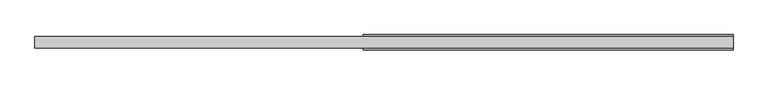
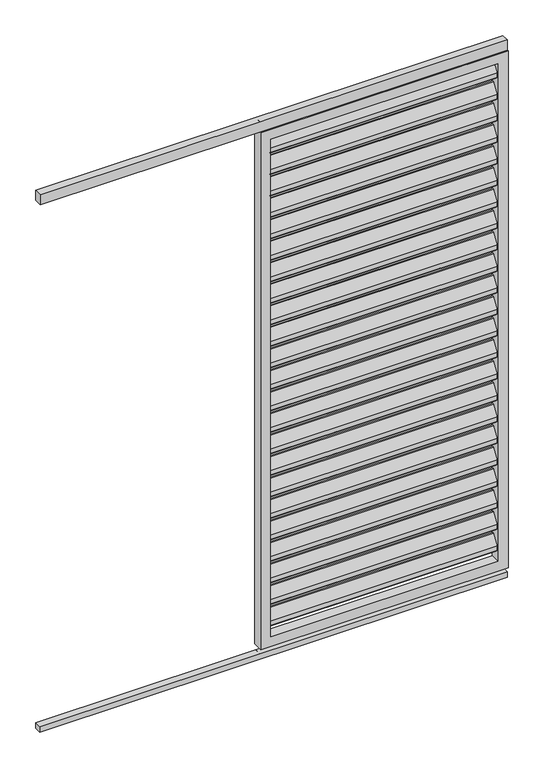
"""IFC4 building model written with IfcOpenShell, lengths in millimetres: proxy geometry, Renson_Camargue_Loggia_Paro_Aluminium : Renson_Camargue_Loggia_Paro_Aluminium."""

from ifc_helpers import new_model, si_unit, point, frame, frame_2d, origin, origin_with_axes, place, context, project, spatial, polyline, circle_curve, trimmed, segment, composite_curve, outline, extrude, source, transform, mapped, element, save


def generic_models_456a874e(model_context):
    return source(origin(), model_context, "Body", "SweptSolid", [
        extrude(outline(composite_curve([segment(trimmed(circle_curve(frame_2d((12.6675921, 2162.6587719)), 3.0), [point((10.1515804, 2164.292689))], [point((15.6675921, 2162.6587719))], False, "CARTESIAN"), True, "CONTINUOUS"), segment(polyline([(15.6675921, 2162.6587719), (15.6675921, 2144.2979873)]), True, "CONTINUOUS"), segment(trimmed(circle_curve(frame_2d((12.6675921, 2144.2979873)), 3.0), [point((15.6675921, 2144.2979873))], [point((15.1836038, 2142.6640702))], False, "CARTESIAN"), True, "CONTINUOUS"), segment(polyline([(15.1836038, 2142.6640702), (-8.8163962, 2105.707311)]), True, "CONTINUOUS"), segment(trimmed(circle_curve(frame_2d((-11.3324079, 2107.3412281)), 3.0), [point((-8.8163962, 2105.707311))], [point((-14.3324079, 2107.3412281))], False, "CARTESIAN"), True, "CONTINUOUS"), segment(polyline([(-14.3324079, 2107.3412281), (-14.3324079, 2126.5906532), (10.1515804, 2164.292689)]), True, "CONTINUOUS")], self_intersect=False)), frame((-450.0, 0.0, 0.0), z_axis=(1.0, 0.0, 0.0), x_axis=(0.0, 1.0, 0.0)), (0.0, 0.0, 1.0), 900.0),
        extrude(outline(composite_curve([segment(trimmed(circle_curve(frame_2d((12.6675921, 2072.6587719)), 3.0), [point((10.1515804, 2074.292689))], [point((15.6675921, 2072.6587719))], False, "CARTESIAN"), True, "CONTINUOUS"), segment(polyline([(15.6675921, 2072.6587719), (15.6675921, 2054.2979873)]), True, "CONTINUOUS"), segment(trimmed(circle_curve(frame_2d((12.6675921, 2054.2979873)), 3.0), [point((15.6675921, 2054.2979873))], [point((15.1836038, 2052.6640702))], False, "CARTESIAN"), True, "CONTINUOUS"), segment(polyline([(15.1836038, 2052.6640702), (-8.8163962, 2015.707311)]), True, "CONTINUOUS"), segment(trimmed(circle_curve(frame_2d((-11.3324079, 2017.3412281)), 3.0), [point((-8.8163962, 2015.707311))], [point((-14.3324079, 2017.3412281))], False, "CARTESIAN"), True, "CONTINUOUS"), segment(polyline([(-14.3324079, 2017.3412281), (-14.3324079, 2036.5906532), (10.1515804, 2074.292689)]), True, "CONTINUOUS")], self_intersect=False)), frame((-450.0, 0.0, 0.0), z_axis=(1.0, 0.0, 0.0), x_axis=(0.0, 1.0, 0.0)), (0.0, 0.0, 1.0), 900.0),
        extrude(outline(composite_curve([segment(trimmed(circle_curve(frame_2d((12.6675921, 1982.6587719)), 3.0), [point((10.1515804, 1984.292689))], [point((15.6675921, 1982.6587719))], False, "CARTESIAN"), True, "CONTINUOUS"), segment(polyline([(15.6675921, 1982.6587719), (15.6675921, 1964.2979873)]), True, "CONTINUOUS"), segment(trimmed(circle_curve(frame_2d((12.6675921, 1964.2979873)), 3.0), [point((15.6675921, 1964.2979873))], [point((15.1836038, 1962.6640702))], False, "CARTESIAN"), True, "CONTINUOUS"), segment(polyline([(15.1836038, 1962.6640702), (-8.8163962, 1925.707311)]), True, "CONTINUOUS"), segment(trimmed(circle_curve(frame_2d((-11.3324079, 1927.3412281)), 3.0), [point((-8.8163962, 1925.707311))], [point((-14.3324079, 1927.3412281))], False, "CARTESIAN"), True, "CONTINUOUS"), segment(polyline([(-14.3324079, 1927.3412281), (-14.3324079, 1946.5906532), (10.1515804, 1984.292689)]), True, "CONTINUOUS")], self_intersect=False)), frame((-450.0, 0.0, 0.0), z_axis=(1.0, 0.0, 0.0), x_axis=(0.0, 1.0, 0.0)), (0.0, 0.0, 1.0), 900.0),
        extrude(outline(composite_curve([segment(trimmed(circle_curve(frame_2d((12.6675921, 1892.6587719)), 3.0), [point((10.1515804, 1894.292689))], [point((15.6675921, 1892.6587719))], False, "CARTESIAN"), True, "CONTINUOUS"), segment(polyline([(15.6675921, 1892.6587719), (15.6675921, 1874.2979873)]), True, "CONTINUOUS"), segment(trimmed(circle_curve(frame_2d((12.6675921, 1874.2979873)), 3.0), [point((15.6675921, 1874.2979873))], [point((15.1836038, 1872.6640702))], False, "CARTESIAN"), True, "CONTINUOUS"), segment(polyline([(15.1836038, 1872.6640702), (-8.8163962, 1835.707311)]), True, "CONTINUOUS"), segment(trimmed(circle_curve(frame_2d((-11.3324079, 1837.3412281)), 3.0), [point((-8.8163962, 1835.707311))], [point((-14.3324079, 1837.3412281))], False, "CARTESIAN"), True, "CONTINUOUS"), segment(polyline([(-14.3324079, 1837.3412281), (-14.3324079, 1856.5906532), (10.1515804, 1894.292689)]), True, "CONTINUOUS")], self_intersect=False)), frame((-450.0, 0.0, 0.0), z_axis=(1.0, 0.0, 0.0), x_axis=(0.0, 1.0, 0.0)), (0.0, 0.0, 1.0), 900.0),
        extrude(outline(composite_curve([segment(trimmed(circle_curve(frame_2d((12.6675921, 1802.6587719)), 3.0), [point((10.1515804, 1804.292689))], [point((15.6675921, 1802.6587719))], False, "CARTESIAN"), True, "CONTINUOUS"), segment(polyline([(15.6675921, 1802.6587719), (15.6675921, 1784.2979873)]), True, "CONTINUOUS"), segment(trimmed(circle_curve(frame_2d((12.6675921, 1784.2979873)), 3.0), [point((15.6675921, 1784.2979873))], [point((15.1836038, 1782.6640702))], False, "CARTESIAN"), True, "CONTINUOUS"), segment(polyline([(15.1836038, 1782.6640702), (-8.8163962, 1745.707311)]), True, "CONTINUOUS"), segment(trimmed(circle_curve(frame_2d((-11.3324079, 1747.3412281)), 3.0), [point((-8.8163962, 1745.707311))], [point((-14.3324079, 1747.3412281))], False, "CARTESIAN"), True, "CONTINUOUS"), segment(polyline([(-14.3324079, 1747.3412281), (-14.3324079, 1766.5906532), (10.1515804, 1804.292689)]), True, "CONTINUOUS")], self_intersect=False)), frame((-450.0, 0.0, 0.0), z_axis=(1.0, 0.0, 0.0), x_axis=(0.0, 1.0, 0.0)), (0.0, 0.0, 1.0), 900.0),
        extrude(outline(composite_curve([segment(trimmed(circle_curve(frame_2d((12.6675921, 1712.6587719)), 3.0), [point((10.1515804, 1714.292689))], [point((15.6675921, 1712.6587719))], False, "CARTESIAN"), True, "CONTINUOUS"), segment(polyline([(15.6675921, 1712.6587719), (15.6675921, 1694.2979873)]), True, "CONTINUOUS"), segment(trimmed(circle_curve(frame_2d((12.6675921, 1694.2979873)), 3.0), [point((15.6675921, 1694.2979873))], [point((15.1836038, 1692.6640702))], False, "CARTESIAN"), True, "CONTINUOUS"), segment(polyline([(15.1836038, 1692.6640702), (-8.8163962, 1655.707311)]), True, "CONTINUOUS"), segment(trimmed(circle_curve(frame_2d((-11.3324079, 1657.3412281)), 3.0), [point((-8.8163962, 1655.707311))], [point((-14.3324079, 1657.3412281))], False, "CARTESIAN"), True, "CONTINUOUS"), segment(polyline([(-14.3324079, 1657.3412281), (-14.3324079, 1676.5906532), (10.1515804, 1714.292689)]), True, "CONTINUOUS")], self_intersect=False)), frame((-450.0, 0.0, 0.0), z_axis=(1.0, 0.0, 0.0), x_axis=(0.0, 1.0, 0.0)), (0.0, 0.0, 1.0), 900.0),
        extrude(outline(composite_curve([segment(trimmed(circle_curve(frame_2d((12.6675921, 1622.6587719)), 3.0), [point((10.1515804, 1624.292689))], [point((15.6675921, 1622.6587719))], False, "CARTESIAN"), True, "CONTINUOUS"), segment(polyline([(15.6675921, 1622.6587719), (15.6675921, 1604.2979873)]), True, "CONTINUOUS"), segment(trimmed(circle_curve(frame_2d((12.6675921, 1604.2979873)), 3.0), [point((15.6675921, 1604.2979873))], [point((15.1836038, 1602.6640702))], False, "CARTESIAN"), True, "CONTINUOUS"), segment(polyline([(15.1836038, 1602.6640702), (-8.8163962, 1565.707311)]), True, "CONTINUOUS"), segment(trimmed(circle_curve(frame_2d((-11.3324079, 1567.3412281)), 3.0), [point((-8.8163962, 1565.707311))], [point((-14.3324079, 1567.3412281))], False, "CARTESIAN"), True, "CONTINUOUS"), segment(polyline([(-14.3324079, 1567.3412281), (-14.3324079, 1586.5906532), (10.1515804, 1624.292689)]), True, "CONTINUOUS")], self_intersect=False)), frame((-450.0, 0.0, 0.0), z_axis=(1.0, 0.0, 0.0), x_axis=(0.0, 1.0, 0.0)), (0.0, 0.0, 1.0), 900.0),
        extrude(outline(composite_curve([segment(trimmed(circle_curve(frame_2d((12.6675921, 1532.6587719)), 3.0), [point((10.1515804, 1534.292689))], [point((15.6675921, 1532.6587719))], False, "CARTESIAN"), True, "CONTINUOUS"), segment(polyline([(15.6675921, 1532.6587719), (15.6675921, 1514.2979873)]), True, "CONTINUOUS"), segment(trimmed(circle_curve(frame_2d((12.6675921, 1514.2979873)), 3.0), [point((15.6675921, 1514.2979873))], [point((15.1836038, 1512.6640702))], False, "CARTESIAN"), True, "CONTINUOUS"), segment(polyline([(15.1836038, 1512.6640702), (-8.8163962, 1475.707311)]), True, "CONTINUOUS"), segment(trimmed(circle_curve(frame_2d((-11.3324079, 1477.3412281)), 3.0), [point((-8.8163962, 1475.707311))], [point((-14.3324079, 1477.3412281))], False, "CARTESIAN"), True, "CONTINUOUS"), segment(polyline([(-14.3324079, 1477.3412281), (-14.3324079, 1496.5906532), (10.1515804, 1534.292689)]), True, "CONTINUOUS")], self_intersect=False)), frame((-450.0, 0.0, 0.0), z_axis=(1.0, 0.0, 0.0), x_axis=(0.0, 1.0, 0.0)), (0.0, 0.0, 1.0), 900.0),
        extrude(outline(composite_curve([segment(trimmed(circle_curve(frame_2d((12.6675921, 1442.6587719)), 3.0), [point((10.1515804, 1444.292689))], [point((15.6675921, 1442.6587719))], False, "CARTESIAN"), True, "CONTINUOUS"), segment(polyline([(15.6675921, 1442.6587719), (15.6675921, 1424.2979873)]), True, "CONTINUOUS"), segment(trimmed(circle_curve(frame_2d((12.6675921, 1424.2979873)), 3.0), [point((15.6675921, 1424.2979873))], [point((15.1836038, 1422.6640702))], False, "CARTESIAN"), True, "CONTINUOUS"), segment(polyline([(15.1836038, 1422.6640702), (-8.8163962, 1385.707311)]), True, "CONTINUOUS"), segment(trimmed(circle_curve(frame_2d((-11.3324079, 1387.3412281)), 3.0), [point((-8.8163962, 1385.707311))], [point((-14.3324079, 1387.3412281))], False, "CARTESIAN"), True, "CONTINUOUS"), segment(polyline([(-14.3324079, 1387.3412281), (-14.3324079, 1406.5906532), (10.1515804, 1444.292689)]), True, "CONTINUOUS")], self_intersect=False)), frame((-450.0, 0.0, 0.0), z_axis=(1.0, 0.0, 0.0), x_axis=(0.0, 1.0, 0.0)), (0.0, 0.0, 1.0), 900.0),
        extrude(outline(composite_curve([segment(trimmed(circle_curve(frame_2d((12.6675921, 1352.6587719)), 3.0), [point((10.1515804, 1354.292689))], [point((15.6675921, 1352.6587719))], False, "CARTESIAN"), True, "CONTINUOUS"), segment(polyline([(15.6675921, 1352.6587719), (15.6675921, 1334.2979873)]), True, "CONTINUOUS"), segment(trimmed(circle_curve(frame_2d((12.6675921, 1334.2979873)), 3.0), [point((15.6675921, 1334.2979873))], [point((15.1836038, 1332.6640702))], False, "CARTESIAN"), True, "CONTINUOUS"), segment(polyline([(15.1836038, 1332.6640702), (-8.8163962, 1295.707311)]), True, "CONTINUOUS"), segment(trimmed(circle_curve(frame_2d((-11.3324079, 1297.3412281)), 3.0), [point((-8.8163962, 1295.707311))], [point((-14.3324079, 1297.3412281))], False, "CARTESIAN"), True, "CONTINUOUS"), segment(polyline([(-14.3324079, 1297.3412281), (-14.3324079, 1316.5906532), (10.1515804, 1354.292689)]), True, "CONTINUOUS")], self_intersect=False)), frame((-450.0, 0.0, 0.0), z_axis=(1.0, 0.0, 0.0), x_axis=(0.0, 1.0, 0.0)), (0.0, 0.0, 1.0), 900.0),
        extrude(outline(composite_curve([segment(trimmed(circle_curve(frame_2d((12.6675921, 1262.6587719)), 3.0), [point((10.1515804, 1264.292689))], [point((15.6675921, 1262.6587719))], False, "CARTESIAN"), True, "CONTINUOUS"), segment(polyline([(15.6675921, 1262.6587719), (15.6675921, 1244.2979873)]), True, "CONTINUOUS"), segment(trimmed(circle_curve(frame_2d((12.6675921, 1244.2979873)), 3.0), [point((15.6675921, 1244.2979873))], [point((15.1836038, 1242.6640702))], False, "CARTESIAN"), True, "CONTINUOUS"), segment(polyline([(15.1836038, 1242.6640702), (-8.8163962, 1205.707311)]), True, "CONTINUOUS"), segment(trimmed(circle_curve(frame_2d((-11.3324079, 1207.3412281)), 3.0), [point((-8.8163962, 1205.707311))], [point((-14.3324079, 1207.3412281))], False, "CARTESIAN"), True, "CONTINUOUS"), segment(polyline([(-14.3324079, 1207.3412281), (-14.3324079, 1226.5906532), (10.1515804, 1264.292689)]), True, "CONTINUOUS")], self_intersect=False)), frame((-450.0, 0.0, 0.0), z_axis=(1.0, 0.0, 0.0), x_axis=(0.0, 1.0, 0.0)), (0.0, 0.0, 1.0), 900.0),
        extrude(outline(composite_curve([segment(trimmed(circle_curve(frame_2d((12.6675921, 1172.6587719)), 3.0), [point((10.1515804, 1174.292689))], [point((15.6675921, 1172.6587719))], False, "CARTESIAN"), True, "CONTINUOUS"), segment(polyline([(15.6675921, 1172.6587719), (15.6675921, 1154.2979873)]), True, "CONTINUOUS"), segment(trimmed(circle_curve(frame_2d((12.6675921, 1154.2979873)), 3.0), [point((15.6675921, 1154.2979873))], [point((15.1836038, 1152.6640702))], False, "CARTESIAN"), True, "CONTINUOUS"), segment(polyline([(15.1836038, 1152.6640702), (-8.8163962, 1115.707311)]), True, "CONTINUOUS"), segment(trimmed(circle_curve(frame_2d((-11.3324079, 1117.3412281)), 3.0), [point((-8.8163962, 1115.707311))], [point((-14.3324079, 1117.3412281))], False, "CARTESIAN"), True, "CONTINUOUS"), segment(polyline([(-14.3324079, 1117.3412281), (-14.3324079, 1136.5906532), (10.1515804, 1174.292689)]), True, "CONTINUOUS")], self_intersect=False)), frame((-450.0, 0.0, 0.0), z_axis=(1.0, 0.0, 0.0), x_axis=(0.0, 1.0, 0.0)), (0.0, 0.0, 1.0), 900.0),
        extrude(outline(composite_curve([segment(trimmed(circle_curve(frame_2d((12.6675921, 1082.6587719)), 3.0), [point((10.1515804, 1084.292689))], [point((15.6675921, 1082.6587719))], False, "CARTESIAN"), True, "CONTINUOUS"), segment(polyline([(15.6675921, 1082.6587719), (15.6675921, 1064.2979873)]), True, "CONTINUOUS"), segment(trimmed(circle_curve(frame_2d((12.6675921, 1064.2979873)), 3.0), [point((15.6675921, 1064.2979873))], [point((15.1836038, 1062.6640702))], False, "CARTESIAN"), True, "CONTINUOUS"), segment(polyline([(15.1836038, 1062.6640702), (-8.8163962, 1025.707311)]), True, "CONTINUOUS"), segment(trimmed(circle_curve(frame_2d((-11.3324079, 1027.3412281)), 3.0), [point((-8.8163962, 1025.707311))], [point((-14.3324079, 1027.3412281))], False, "CARTESIAN"), True, "CONTINUOUS"), segment(polyline([(-14.3324079, 1027.3412281), (-14.3324079, 1046.5906532), (10.1515804, 1084.292689)]), True, "CONTINUOUS")], self_intersect=False)), frame((-450.0, 0.0, 0.0), z_axis=(1.0, 0.0, 0.0), x_axis=(0.0, 1.0, 0.0)), (0.0, 0.0, 1.0), 900.0),
        extrude(outline(composite_curve([segment(trimmed(circle_curve(frame_2d((12.6675921, 992.6587719)), 3.0), [point((10.1515804, 994.292689))], [point((15.6675921, 992.6587719))], False, "CARTESIAN"), True, "CONTINUOUS"), segment(polyline([(15.6675921, 992.6587719), (15.6675921, 974.2979873)]), True, "CONTINUOUS"), segment(trimmed(circle_curve(frame_2d((12.6675921, 974.2979873)), 3.0), [point((15.6675921, 974.2979873))], [point((15.1836038, 972.6640702))], False, "CARTESIAN"), True, "CONTINUOUS"), segment(polyline([(15.1836038, 972.6640702), (-8.8163962, 935.707311)]), True, "CONTINUOUS"), segment(trimmed(circle_curve(frame_2d((-11.3324079, 937.3412281)), 3.0), [point((-8.8163962, 935.707311))], [point((-14.3324079, 937.3412281))], False, "CARTESIAN"), True, "CONTINUOUS"), segment(polyline([(-14.3324079, 937.3412281), (-14.3324079, 956.5906532), (10.1515804, 994.292689)]), True, "CONTINUOUS")], self_intersect=False)), frame((-450.0, 0.0, 0.0), z_axis=(1.0, 0.0, 0.0), x_axis=(0.0, 1.0, 0.0)), (0.0, 0.0, 1.0), 900.0),
        extrude(outline(composite_curve([segment(trimmed(circle_curve(frame_2d((12.6675921, 902.6587719)), 3.0), [point((10.1515804, 904.292689))], [point((15.6675921, 902.6587719))], False, "CARTESIAN"), True, "CONTINUOUS"), segment(polyline([(15.6675921, 902.6587719), (15.6675921, 884.2979873)]), True, "CONTINUOUS"), segment(trimmed(circle_curve(frame_2d((12.6675921, 884.2979873)), 3.0), [point((15.6675921, 884.2979873))], [point((15.1836038, 882.6640702))], False, "CARTESIAN"), True, "CONTINUOUS"), segment(polyline([(15.1836038, 882.6640702), (-8.8163962, 845.707311)]), True, "CONTINUOUS"), segment(trimmed(circle_curve(frame_2d((-11.3324079, 847.3412281)), 3.0), [point((-8.8163962, 845.707311))], [point((-14.3324079, 847.3412281))], False, "CARTESIAN"), True, "CONTINUOUS"), segment(polyline([(-14.3324079, 847.3412281), (-14.3324079, 866.5906532), (10.1515804, 904.292689)]), True, "CONTINUOUS")], self_intersect=False)), frame((-450.0, 0.0, 0.0), z_axis=(1.0, 0.0, 0.0), x_axis=(0.0, 1.0, 0.0)), (0.0, 0.0, 1.0), 900.0),
        extrude(outline(composite_curve([segment(trimmed(circle_curve(frame_2d((12.6675921, 812.6587719)), 3.0), [point((10.1515804, 814.292689))], [point((15.6675921, 812.6587719))], False, "CARTESIAN"), True, "CONTINUOUS"), segment(polyline([(15.6675921, 812.6587719), (15.6675921, 794.2979873)]), True, "CONTINUOUS"), segment(trimmed(circle_curve(frame_2d((12.6675921, 794.2979873)), 3.0), [point((15.6675921, 794.2979873))], [point((15.1836038, 792.6640702))], False, "CARTESIAN"), True, "CONTINUOUS"), segment(polyline([(15.1836038, 792.6640702), (-8.8163962, 755.707311)]), True, "CONTINUOUS"), segment(trimmed(circle_curve(frame_2d((-11.3324079, 757.3412281)), 3.0), [point((-8.8163962, 755.707311))], [point((-14.3324079, 757.3412281))], False, "CARTESIAN"), True, "CONTINUOUS"), segment(polyline([(-14.3324079, 757.3412281), (-14.3324079, 776.5906532), (10.1515804, 814.292689)]), True, "CONTINUOUS")], self_intersect=False)), frame((-450.0, 0.0, 0.0), z_axis=(1.0, 0.0, 0.0), x_axis=(0.0, 1.0, 0.0)), (0.0, 0.0, 1.0), 900.0),
        extrude(outline(composite_curve([segment(trimmed(circle_curve(frame_2d((12.6675921, 722.6587719)), 3.0), [point((10.1515804, 724.292689))], [point((15.6675921, 722.6587719))], False, "CARTESIAN"), True, "CONTINUOUS"), segment(polyline([(15.6675921, 722.6587719), (15.6675921, 704.2979873)]), True, "CONTINUOUS"), segment(trimmed(circle_curve(frame_2d((12.6675921, 704.2979873)), 3.0), [point((15.6675921, 704.2979873))], [point((15.1836038, 702.6640702))], False, "CARTESIAN"), True, "CONTINUOUS"), segment(polyline([(15.1836038, 702.6640702), (-8.8163962, 665.707311)]), True, "CONTINUOUS"), segment(trimmed(circle_curve(frame_2d((-11.3324079, 667.3412281)), 3.0), [point((-8.8163962, 665.707311))], [point((-14.3324079, 667.3412281))], False, "CARTESIAN"), True, "CONTINUOUS"), segment(polyline([(-14.3324079, 667.3412281), (-14.3324079, 686.5906532), (10.1515804, 724.292689)]), True, "CONTINUOUS")], self_intersect=False)), frame((-450.0, 0.0, 0.0), z_axis=(1.0, 0.0, 0.0), x_axis=(0.0, 1.0, 0.0)), (0.0, 0.0, 1.0), 900.0),
        extrude(outline(composite_curve([segment(trimmed(circle_curve(frame_2d((12.6675921, 632.6587719)), 3.0), [point((10.1515804, 634.292689))], [point((15.6675921, 632.6587719))], False, "CARTESIAN"), True, "CONTINUOUS"), segment(polyline([(15.6675921, 632.6587719), (15.6675921, 614.2979873)]), True, "CONTINUOUS"), segment(trimmed(circle_curve(frame_2d((12.6675921, 614.2979873)), 3.0), [point((15.6675921, 614.2979873))], [point((15.1836038, 612.6640702))], False, "CARTESIAN"), True, "CONTINUOUS"), segment(polyline([(15.1836038, 612.6640702), (-8.8163962, 575.707311)]), True, "CONTINUOUS"), segment(trimmed(circle_curve(frame_2d((-11.3324079, 577.3412281)), 3.0), [point((-8.8163962, 575.707311))], [point((-14.3324079, 577.3412281))], False, "CARTESIAN"), True, "CONTINUOUS"), segment(polyline([(-14.3324079, 577.3412281), (-14.3324079, 596.5906532), (10.1515804, 634.292689)]), True, "CONTINUOUS")], self_intersect=False)), frame((-450.0, 0.0, 0.0), z_axis=(1.0, 0.0, 0.0), x_axis=(0.0, 1.0, 0.0)), (0.0, 0.0, 1.0), 900.0),
        extrude(outline(composite_curve([segment(trimmed(circle_curve(frame_2d((12.6675921, 542.6587719)), 3.0), [point((10.1515804, 544.292689))], [point((15.6675921, 542.6587719))], False, "CARTESIAN"), True, "CONTINUOUS"), segment(polyline([(15.6675921, 542.6587719), (15.6675921, 524.2979873)]), True, "CONTINUOUS"), segment(trimmed(circle_curve(frame_2d((12.6675921, 524.2979873)), 3.0), [point((15.6675921, 524.2979873))], [point((15.1836038, 522.6640702))], False, "CARTESIAN"), True, "CONTINUOUS"), segment(polyline([(15.1836038, 522.6640702), (-8.8163962, 485.707311)]), True, "CONTINUOUS"), segment(trimmed(circle_curve(frame_2d((-11.3324079, 487.3412281)), 3.0), [point((-8.8163962, 485.707311))], [point((-14.3324079, 487.3412281))], False, "CARTESIAN"), True, "CONTINUOUS"), segment(polyline([(-14.3324079, 487.3412281), (-14.3324079, 506.5906532), (10.1515804, 544.292689)]), True, "CONTINUOUS")], self_intersect=False)), frame((-450.0, 0.0, 0.0), z_axis=(1.0, 0.0, 0.0), x_axis=(0.0, 1.0, 0.0)), (0.0, 0.0, 1.0), 900.0),
        extrude(outline(composite_curve([segment(trimmed(circle_curve(frame_2d((12.6675921, 452.6587719)), 3.0), [point((10.1515804, 454.292689))], [point((15.6675921, 452.6587719))], False, "CARTESIAN"), True, "CONTINUOUS"), segment(polyline([(15.6675921, 452.6587719), (15.6675921, 434.2979873)]), True, "CONTINUOUS"), segment(trimmed(circle_curve(frame_2d((12.6675921, 434.2979873)), 3.0), [point((15.6675921, 434.2979873))], [point((15.1836038, 432.6640702))], False, "CARTESIAN"), True, "CONTINUOUS"), segment(polyline([(15.1836038, 432.6640702), (-8.8163962, 395.707311)]), True, "CONTINUOUS"), segment(trimmed(circle_curve(frame_2d((-11.3324079, 397.3412281)), 3.0), [point((-8.8163962, 395.707311))], [point((-14.3324079, 397.3412281))], False, "CARTESIAN"), True, "CONTINUOUS"), segment(polyline([(-14.3324079, 397.3412281), (-14.3324079, 416.5906532), (10.1515804, 454.292689)]), True, "CONTINUOUS")], self_intersect=False)), frame((-450.0, 0.0, 0.0), z_axis=(1.0, 0.0, 0.0), x_axis=(0.0, 1.0, 0.0)), (0.0, 0.0, 1.0), 900.0),
        extrude(outline(composite_curve([segment(trimmed(circle_curve(frame_2d((12.6675921, 362.6587719)), 3.0), [point((10.1515804, 364.292689))], [point((15.6675921, 362.6587719))], False, "CARTESIAN"), True, "CONTINUOUS"), segment(polyline([(15.6675921, 362.6587719), (15.6675921, 344.2979873)]), True, "CONTINUOUS"), segment(trimmed(circle_curve(frame_2d((12.6675921, 344.2979873)), 3.0), [point((15.6675921, 344.2979873))], [point((15.1836038, 342.6640702))], False, "CARTESIAN"), True, "CONTINUOUS"), segment(polyline([(15.1836038, 342.6640702), (-8.8163962, 305.707311)]), True, "CONTINUOUS"), segment(trimmed(circle_curve(frame_2d((-11.3324079, 307.3412281)), 3.0), [point((-8.8163962, 305.707311))], [point((-14.3324079, 307.3412281))], False, "CARTESIAN"), True, "CONTINUOUS"), segment(polyline([(-14.3324079, 307.3412281), (-14.3324079, 326.5906532), (10.1515804, 364.292689)]), True, "CONTINUOUS")], self_intersect=False)), frame((-450.0, 0.0, 0.0), z_axis=(1.0, 0.0, 0.0), x_axis=(0.0, 1.0, 0.0)), (0.0, 0.0, 1.0), 900.0),
        extrude(outline(composite_curve([segment(trimmed(circle_curve(frame_2d((12.6675921, 272.6587719)), 3.0), [point((10.1515804, 274.292689))], [point((15.6675921, 272.6587719))], False, "CARTESIAN"), True, "CONTINUOUS"), segment(polyline([(15.6675921, 272.6587719), (15.6675921, 254.2979873)]), True, "CONTINUOUS"), segment(trimmed(circle_curve(frame_2d((12.6675921, 254.2979873)), 3.0), [point((15.6675921, 254.2979873))], [point((15.1836038, 252.6640702))], False, "CARTESIAN"), True, "CONTINUOUS"), segment(polyline([(15.1836038, 252.6640702), (-8.8163962, 215.707311)]), True, "CONTINUOUS"), segment(trimmed(circle_curve(frame_2d((-11.3324079, 217.3412281)), 3.0), [point((-8.8163962, 215.707311))], [point((-14.3324079, 217.3412281))], False, "CARTESIAN"), True, "CONTINUOUS"), segment(polyline([(-14.3324079, 217.3412281), (-14.3324079, 236.5906532), (10.1515804, 274.292689)]), True, "CONTINUOUS")], self_intersect=False)), frame((-450.0, 0.0, 0.0), z_axis=(1.0, 0.0, 0.0), x_axis=(0.0, 1.0, 0.0)), (0.0, 0.0, 1.0), 900.0),
        extrude(outline(composite_curve([segment(trimmed(circle_curve(frame_2d((12.6675921, 182.6587719)), 3.0), [point((10.1515804, 184.292689))], [point((15.6675921, 182.6587719))], False, "CARTESIAN"), True, "CONTINUOUS"), segment(polyline([(15.6675921, 182.6587719), (15.6675921, 164.2979873)]), True, "CONTINUOUS"), segment(trimmed(circle_curve(frame_2d((12.6675921, 164.2979873)), 3.0), [point((15.6675921, 164.2979873))], [point((15.1836038, 162.6640702))], False, "CARTESIAN"), True, "CONTINUOUS"), segment(polyline([(15.1836038, 162.6640702), (-8.8163962, 125.707311)]), True, "CONTINUOUS"), segment(trimmed(circle_curve(frame_2d((-11.3324079, 127.3412281)), 3.0), [point((-8.8163962, 125.707311))], [point((-14.3324079, 127.3412281))], False, "CARTESIAN"), True, "CONTINUOUS"), segment(polyline([(-14.3324079, 127.3412281), (-14.3324079, 146.5906532), (10.1515804, 184.292689)]), True, "CONTINUOUS")], self_intersect=False)), frame((-450.0, 0.0, 0.0), z_axis=(1.0, 0.0, 0.0), x_axis=(0.0, 1.0, 0.0)), (0.0, 0.0, 1.0), 900.0),
        extrude(outline(polyline([(490.0, 15.0), (490.0, -15.0), (-1360.0, -15.0), (-1360.0, 15.0), (490.0, 15.0)])), frame((0.0, 0.0, 2207.7138321), z_axis=(0.0, 0.0, 1.0), x_axis=(1.0, 0.0, 0.0)), (0.0, 0.0, 1.0), 42.2861679),
        extrude(outline(polyline([(-489.0, 15.0), (-489.0, -15.0), (-490.0, -15.0), (-490.0, 15.0), (-489.0, 15.0)])), frame((0.0, 0.0, 2207.7138321), z_axis=(0.0, 0.0, 1.0), x_axis=(1.0, 0.0, 0.0)), (0.0, 0.0, 1.0), 42.2861679),
        extrude(outline(polyline([(490.0, -13.0), (-1360.0, -13.0), (-1360.0, 14.0), (490.0, 14.0), (490.0, -13.0)])), origin_with_axes(), (0.0, 0.0, 1.0), 23.0),
        extrude(outline(polyline([(-489.0, -13.0), (-490.0, -13.0), (-490.0, 14.0), (-489.0, 14.0), (-489.0, -13.0)])), origin_with_axes(), (0.0, 0.0, 1.0), 23.0),
        extrude(outline(polyline([(2207.7138321, -490.0), (45.0, -490.0), (45.0, 490.0), (2207.7138321, 490.0), (2207.7138321, -490.0)]), holes=[polyline([(2167.7138321, 450.0), (85.0, 450.0), (85.0, -450.0), (2167.7138321, -450.0), (2167.7138321, 450.0)])]), frame((0.0, -20.0, 0.0), z_axis=(0.0, 1.0, 0.0), x_axis=(0.0, 0.0, 1.0)), (0.0, 0.0, 1.0), 40.0),
    ])


if __name__ == "__main__":
    model = new_model("IFC4")
    model_context = context("Model", 3, world=origin())
    ifc_project = project(units=[si_unit("LENGTHUNIT", "METRE", prefix="MILLI")], contexts=[model_context])
    site = spatial("IfcSite", under=ifc_project)
    building = spatial("IfcBuilding", under=site)
    placement = place(None, origin())
    generic_models_shape = generic_models_456a874e(model_context)
    element("IfcBuildingElementProxy", 1, Name="Renson_Camargue_Loggia_Paro_Aluminium : Renson_Camargue_Loggia_Paro_Aluminium", ObjectType="Renson_Camargue_Loggia_Paro_Aluminium : Renson_Camargue_Loggia_Paro_Aluminium", at=placement, inside=building, context=model_context, shape_type="MappedRepresentation", body=[
        mapped(generic_models_shape, transform((0.0, 0.0, 0.0), x_axis=(1.0, 0.0, 0.0), y_axis=(0.0, 1.0, 0.0), z_axis=(0.0, 0.0, 1.0))),
    ])
    save(model, "model.ifc")
